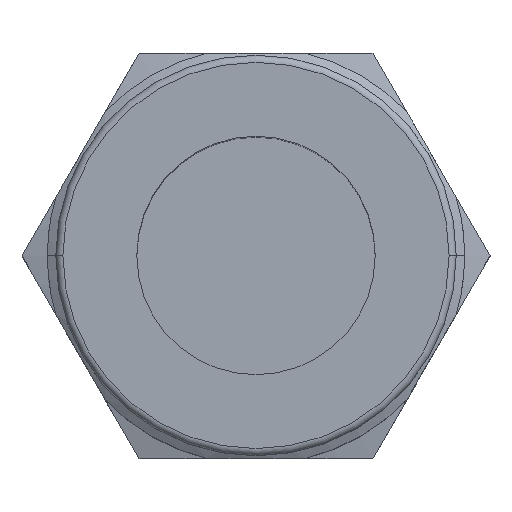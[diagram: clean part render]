
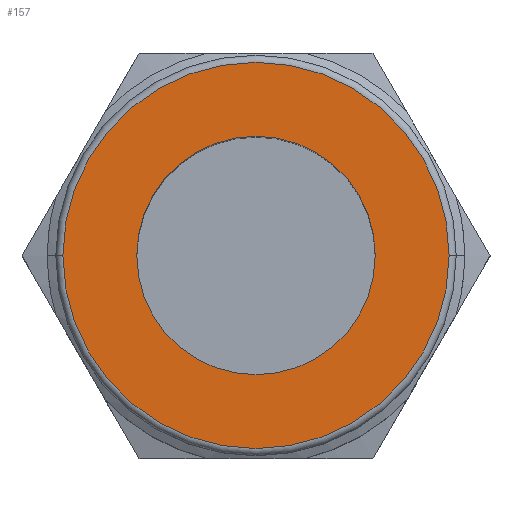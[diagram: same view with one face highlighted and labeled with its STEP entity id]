
A CAD part, top view. The second image highlights one B-rep face of the part: STEP entity #157.
In plain terms, the highlighted planar face has unit normal (0, 0, 1).
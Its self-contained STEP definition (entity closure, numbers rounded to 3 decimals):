
#48=FACE_BOUND('',#1050,.T.);
#103=CIRCLE('',#1527,8.1);
#104=CIRCLE('',#1528,8.1);
#105=CIRCLE('',#1529,5.);
#106=CIRCLE('',#1530,5.);
#157=ADVANCED_FACE('PC10-03_',(#229,#48),#199,.T.);
#199=PLANE('',#1531);
#229=FACE_OUTER_BOUND('',#1049,.T.);
#481=ORIENTED_EDGE('',*,*,#709,.T.);
#482=ORIENTED_EDGE('',*,*,#710,.T.);
#483=ORIENTED_EDGE('',*,*,#711,.F.);
#484=ORIENTED_EDGE('',*,*,#712,.F.);
#709=EDGE_CURVE('132',#994,#995,#103,.T.);
#710=EDGE_CURVE('133',#995,#994,#104,.T.);
#711=EDGE_CURVE('115',#996,#997,#105,.T.);
#712=EDGE_CURVE('114',#997,#996,#106,.T.);
#994=VERTEX_POINT('59',#1348);
#995=VERTEX_POINT('83',#1349);
#996=VERTEX_POINT('80',#1352);
#997=VERTEX_POINT('60',#1353);
#1049=EDGE_LOOP('',(#481,#482));
#1050=EDGE_LOOP('',(#483,#484));
#1348=CARTESIAN_POINT('',(-8.1,0.,29.3));
#1349=CARTESIAN_POINT('',(8.1,0.,29.3));
#1350=CARTESIAN_POINT('',(0.,0.,29.3));
#1351=CARTESIAN_POINT('',(0.,0.,29.3));
#1352=CARTESIAN_POINT('',(5.,0.,29.3));
#1353=CARTESIAN_POINT('',(-5.,0.,29.3));
#1354=CARTESIAN_POINT('',(0.,0.,29.3));
#1355=CARTESIAN_POINT('',(0.,0.,29.3));
#1356=CARTESIAN_POINT('',(-8.6,8.6,29.3));
#1527=AXIS2_PLACEMENT_3D('',#1350,#1585,#1593);
#1528=AXIS2_PLACEMENT_3D('',#1351,#1585,#1586);
#1529=AXIS2_PLACEMENT_3D('',#1354,#1585,#1586);
#1530=AXIS2_PLACEMENT_3D('',#1355,#1585,#1593);
#1531=AXIS2_PLACEMENT_3D('',#1356,#1585,#1598);
#1585=DIRECTION('',(0.,0.,1.));
#1586=DIRECTION('',(1.,0.,0.));
#1593=DIRECTION('',(-1.,0.,0.));
#1598=DIRECTION('',(0.,-1.,0.));
